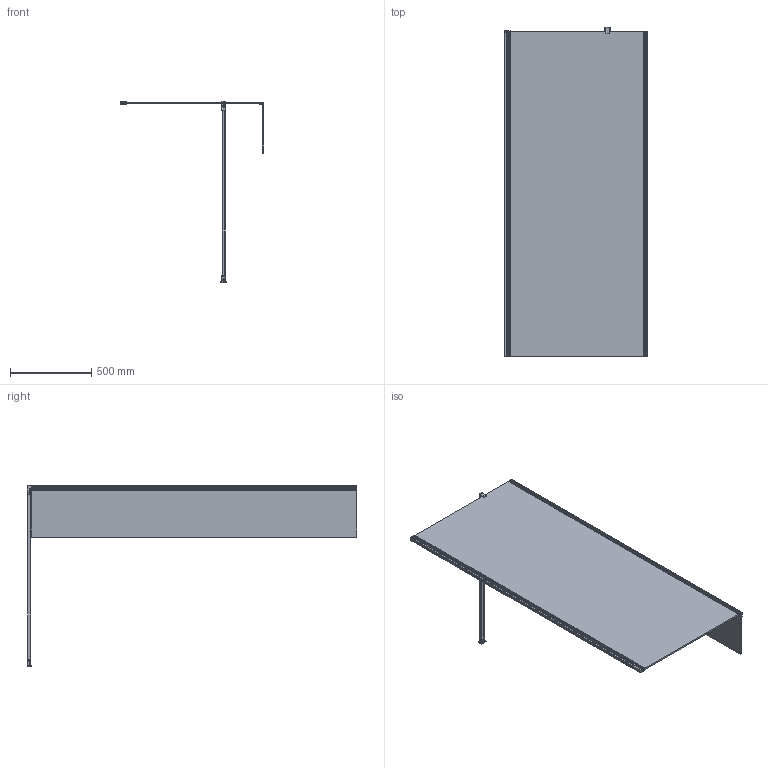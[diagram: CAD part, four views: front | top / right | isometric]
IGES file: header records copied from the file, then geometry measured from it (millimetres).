
Global section: file name: 4dd333ec-1754-49b8-9b89-15fe66901213; native system: unknown; preprocessor: unknown; author: unknown; organization: unknown; date: 20200708.091734; units: millimetre
Bounding box: 884.5 x 2024 x 1112.86 mm (x, y, z)
Volume: 22549056.5 mm3; surface area: 5952967.5 mm2
Topology: 16 solids, 16 shells, 814 faces, 2116 edges, 1332 vertices
Faces by surface type: bspline 814
